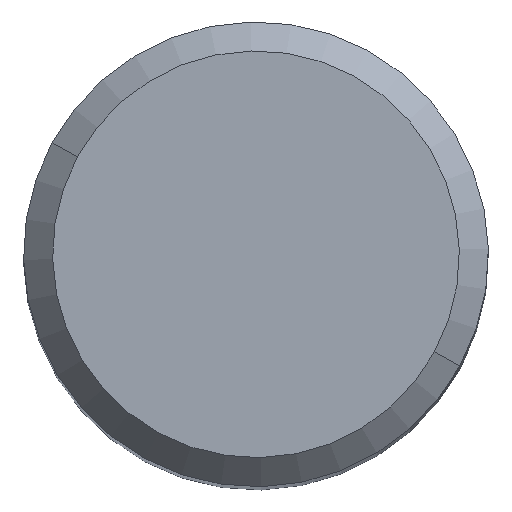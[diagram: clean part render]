
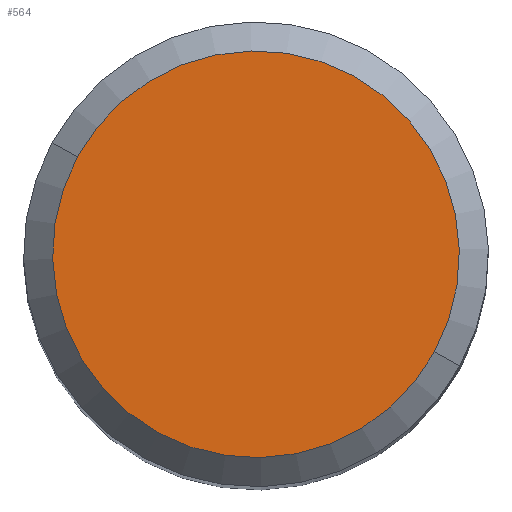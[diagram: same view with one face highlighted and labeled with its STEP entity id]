
A CAD part, top view. The second image highlights one B-rep face of the part: STEP entity #564.
In plain terms, the highlighted planar face has unit normal (0, 0, 1).
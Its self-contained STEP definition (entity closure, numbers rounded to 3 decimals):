
#512=AXIS2_PLACEMENT_3D('Circle Axis2P3D',#510,#511,$) ;
#544=AXIS2_PLACEMENT_3D('Circle Axis2P3D',#542,#543,$) ;
#558=AXIS2_PLACEMENT_3D('Plane Axis2P3D',#555,#556,#557) ;
#510=CARTESIAN_POINT('Axis2P3D Location',(0.,0.,0.)) ;
#514=CARTESIAN_POINT('Vertex',(6.143,-3.356,0.)) ;
#516=CARTESIAN_POINT('Vertex',(-6.143,3.356,0.)) ;
#542=CARTESIAN_POINT('Axis2P3D Location',(0.,0.,0.)) ;
#555=CARTESIAN_POINT('Axis2P3D Location',(-8.,0.,0.)) ;
#511=DIRECTION('Axis2P3D Direction',(0.,0.,-1.)) ;
#543=DIRECTION('Axis2P3D Direction',(0.,0.,-1.)) ;
#556=DIRECTION('Axis2P3D Direction',(0.,0.,-1.)) ;
#557=DIRECTION('Axis2P3D XDirection',(-1.,0.,0.)) ;
#561=ORIENTED_EDGE('',*,*,#546,.F.) ;
#562=ORIENTED_EDGE('',*,*,#518,.F.) ;
#564=ADVANCED_FACE('NO_CUT',(#563),#559,.F.) ;
#513=CIRCLE('generated circle',#512,7.) ;
#545=CIRCLE('generated circle',#544,7.) ;
#518=EDGE_CURVE('',#515,#517,#513,.T.) ;
#546=EDGE_CURVE('',#517,#515,#545,.T.) ;
#560=EDGE_LOOP('',(#561,#562)) ;
#563=FACE_OUTER_BOUND('',#560,.T.) ;
#559=PLANE('',#558) ;
#515=VERTEX_POINT('',#514) ;
#517=VERTEX_POINT('',#516) ;
